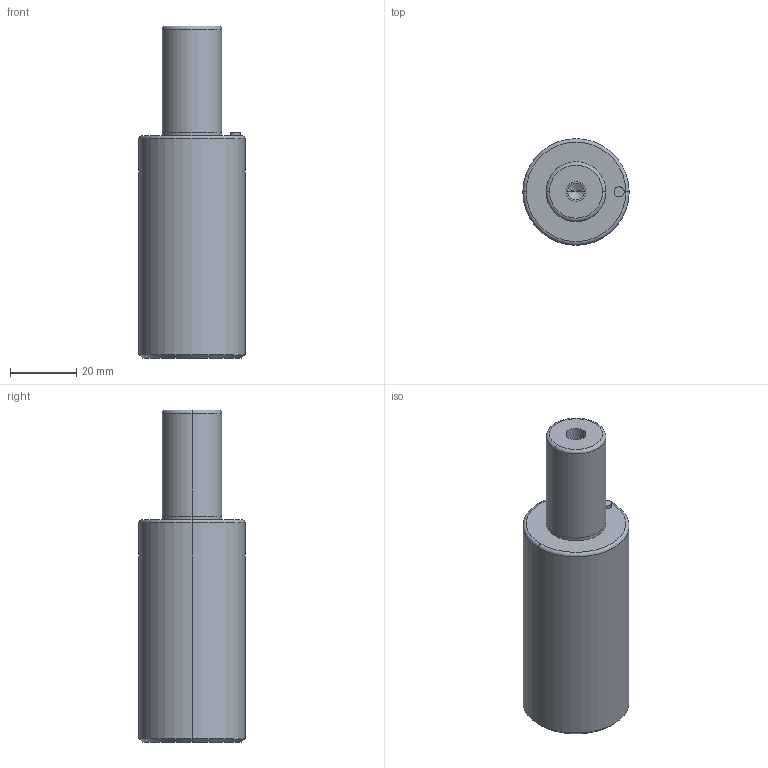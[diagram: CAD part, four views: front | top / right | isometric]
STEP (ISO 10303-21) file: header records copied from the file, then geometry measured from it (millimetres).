
FILE_DESCRIPTION(/* description */ (''),/* implementation_level */ '2;1');
FILE_NAME(/* name */ '3d_gsc32-32_03824_r00.stp',/* time_stamp */ '2011-01-10T14:15:22+09:00',/* author */ ('MISUMI'),/* organization */ (''),/* preprocessor_version */ 'ST-DEVELOPER v11',/* originating_system */ 'UGS - NX 5.0',/* authorisation */ '');
FILE_SCHEMA (('CONFIG_CONTROL_DESIGN'));
Length unit declared in the file: millimetre
Products named in the file (1): 3d_gsc32-32_03824_r00
Bounding box: 32 x 32 x 100 mm (x, y, z)
Volume: 61617.7 mm3; surface area: 10493 mm2
Topology: 1 solids, 1 shells, 32 faces, 66 edges, 38 vertices
Faces by surface type: cylinder 16, cone 6, plane 6, torus 4
Entity records: 912 total; most frequent: DIRECTION 168, CARTESIAN_POINT 133, ORIENTED_EDGE 124, AXIS2_PLACEMENT_3D 73, EDGE_CURVE 62, CIRCLE 40, EDGE_LOOP 38, VERTEX_POINT 38
